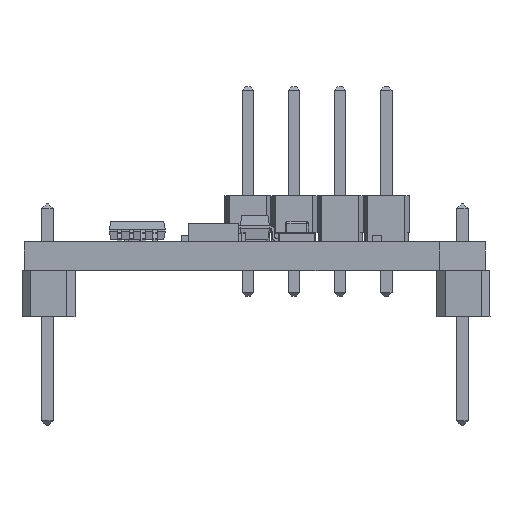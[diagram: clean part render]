
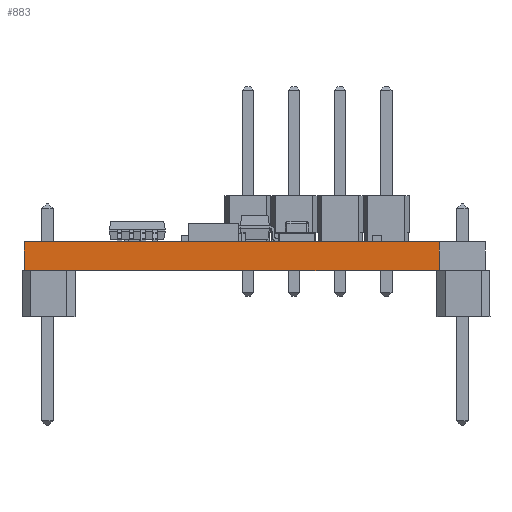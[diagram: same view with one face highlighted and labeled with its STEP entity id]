
A CAD part, front view. The second image highlights one B-rep face of the part: STEP entity #883.
In plain terms, the highlighted planar face has unit normal (0, -1, 0).
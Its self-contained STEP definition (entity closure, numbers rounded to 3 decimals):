
#858 = VERTEX_POINT('',#859);
#859 = CARTESIAN_POINT('',(21.59,-3.81,0.));
#865 = EDGE_CURVE('',#866,#858,#868,.T.);
#866 = VERTEX_POINT('',#867);
#867 = CARTESIAN_POINT('',(21.59,-3.81,-1.59));
#868 = LINE('',#869,#870);
#869 = CARTESIAN_POINT('',(21.59,-3.81,-1.59));
#870 = VECTOR('',#871,1.);
#871 = DIRECTION('',(0.,0.,1.));
#883 = ADVANCED_FACE('',(#884),#909,.T.);
#884 = FACE_BOUND('',#885,.T.);
#885 = EDGE_LOOP('',(#886,#887,#895,#903));
#886 = ORIENTED_EDGE('',*,*,#865,.T.);
#887 = ORIENTED_EDGE('',*,*,#888,.T.);
#888 = EDGE_CURVE('',#858,#889,#891,.T.);
#889 = VERTEX_POINT('',#890);
#890 = CARTESIAN_POINT('',(-1.27,-3.81,0.));
#891 = LINE('',#892,#893);
#892 = CARTESIAN_POINT('',(21.59,-3.81,0.));
#893 = VECTOR('',#894,1.);
#894 = DIRECTION('',(-1.,0.,0.));
#895 = ORIENTED_EDGE('',*,*,#896,.F.);
#896 = EDGE_CURVE('',#897,#889,#899,.T.);
#897 = VERTEX_POINT('',#898);
#898 = CARTESIAN_POINT('',(-1.27,-3.81,-1.59));
#899 = LINE('',#900,#901);
#900 = CARTESIAN_POINT('',(-1.27,-3.81,-1.59));
#901 = VECTOR('',#902,1.);
#902 = DIRECTION('',(0.,0.,1.));
#903 = ORIENTED_EDGE('',*,*,#904,.F.);
#904 = EDGE_CURVE('',#866,#897,#905,.T.);
#905 = LINE('',#906,#907);
#906 = CARTESIAN_POINT('',(21.59,-3.81,-1.59));
#907 = VECTOR('',#908,1.);
#908 = DIRECTION('',(-1.,0.,0.));
#909 = PLANE('',#910);
#910 = AXIS2_PLACEMENT_3D('',#911,#912,#913);
#911 = CARTESIAN_POINT('',(21.59,-3.81,-1.59));
#912 = DIRECTION('',(0.,-1.,0.));
#913 = DIRECTION('',(-1.,0.,0.));
